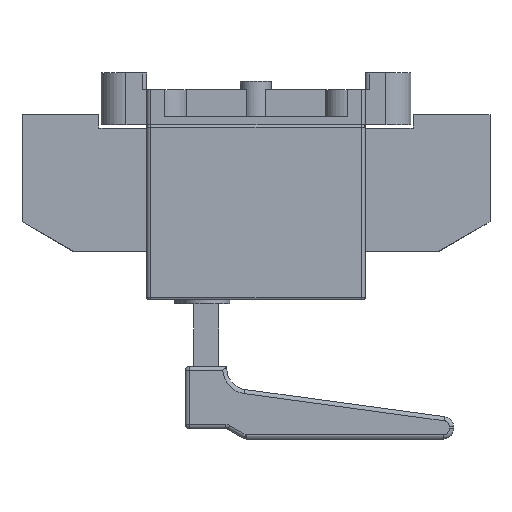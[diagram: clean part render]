
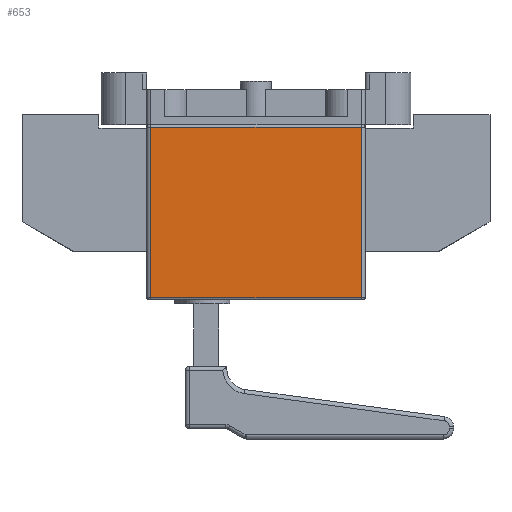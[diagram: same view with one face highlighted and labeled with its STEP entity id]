
A CAD part, left-side view. The second image highlights one B-rep face of the part: STEP entity #653.
In plain terms, the highlighted planar face has unit normal (-1, 0, 0).
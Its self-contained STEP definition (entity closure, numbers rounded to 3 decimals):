
#653=ADVANCED_FACE('',(#1278),#1014,.F.);
#1014=PLANE('',#7486);
#1278=FACE_OUTER_BOUND('',#1668,.T.);
#1668=EDGE_LOOP('',(#2504,#2505,#2506,#2507));
#2504=ORIENTED_EDGE('',*,*,#5070,.T.);
#2505=ORIENTED_EDGE('',*,*,#5071,.T.);
#2506=ORIENTED_EDGE('',*,*,#5067,.F.);
#2507=ORIENTED_EDGE('',*,*,#5072,.T.);
#4332=VERTEX_POINT('',#10689);
#4333=VERTEX_POINT('',#10690);
#4334=VERTEX_POINT('',#10695);
#4335=VERTEX_POINT('',#10696);
#5067=EDGE_CURVE('',#4332,#4333,#5985,.T.);
#5070=EDGE_CURVE('',#4334,#4335,#5986,.T.);
#5071=EDGE_CURVE('',#4335,#4333,#5987,.T.);
#5072=EDGE_CURVE('',#4332,#4334,#5988,.T.);
#5985=LINE('',#10688,#6744);
#5986=LINE('',#10694,#6745);
#5987=LINE('',#10697,#6746);
#5988=LINE('',#10698,#6747);
#6744=VECTOR('',#8518,1.);
#6745=VECTOR('',#8525,1.);
#6746=VECTOR('',#8526,1.);
#6747=VECTOR('',#8527,1.);
#7486=AXIS2_PLACEMENT_3D('',#10699,#8528,#8529);
#8518=DIRECTION('',(0.,0.,1.));
#8525=DIRECTION('',(0.,0.,1.));
#8526=DIRECTION('',(0.,1.,0.));
#8527=DIRECTION('',(0.,-1.,0.));
#8528=DIRECTION('',(1.,0.,0.));
#8529=DIRECTION('',(0.,1.,0.));
#10688=CARTESIAN_POINT('',(-197.5,50.5,-84.));
#10689=CARTESIAN_POINT('',(-197.5,50.5,-83.));
#10690=CARTESIAN_POINT('',(-197.5,50.5,-1.));
#10694=CARTESIAN_POINT('',(-197.5,-50.5,-84.));
#10695=CARTESIAN_POINT('',(-197.5,-50.5,-83.));
#10696=CARTESIAN_POINT('',(-197.5,-50.5,-1.));
#10697=CARTESIAN_POINT('',(-197.5,-50.5,-1.));
#10698=CARTESIAN_POINT('',(-197.5,-50.5,-83.));
#10699=CARTESIAN_POINT('',(-197.5,-50.5,-84.));
